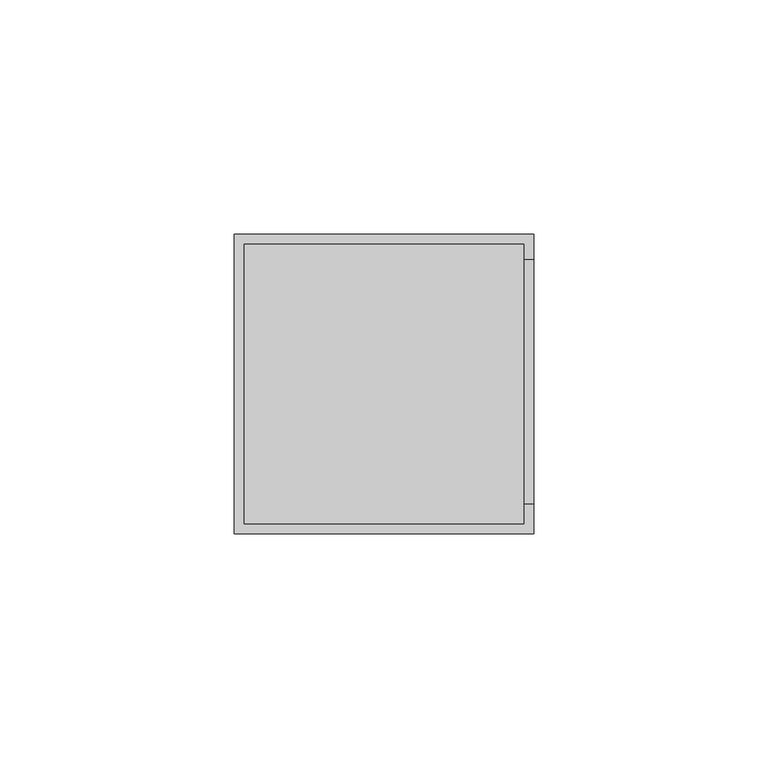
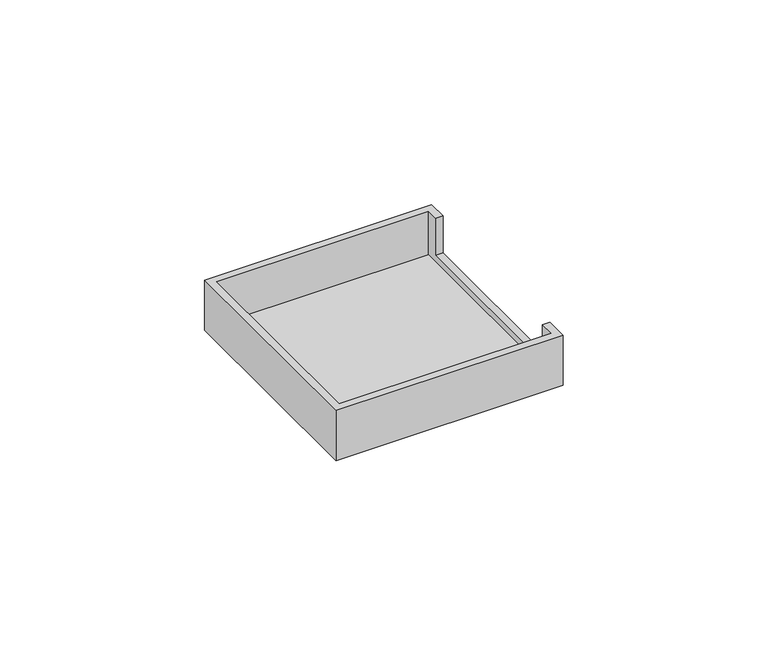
"""IFC4 building model written with IfcOpenShell, lengths in millimetres: duct fitting geometry, Изолирующая коробка - 1 пост - суппорт универсальный - для монтажа : Изолирующая коробка - 1 пост - суппорт универсальный - для монтажа."""

from ifc_helpers import new_model, si_unit, origin, origin_with_axes, place, context, project, spatial, polyline, outline, extrude, faceted_brep, source, transform, mapped, element, save


def duct_fitting_19e58b72(model_context):
    return source(origin(), model_context, "Body", "SolidModel", [
        extrude(outline(polyline([(30.0, 30.0), (30.0, -30.0), (-30.0, -30.0), (-30.0, 30.0), (30.0, 30.0)])), origin_with_axes(), (0.0, 0.0, 1.0), 2.0),
        faceted_brep([(32.0, 32.0, 15.0), (-32.0, 32.0, 15.0), (-32.0, -32.0, 15.0), (32.0, -32.0, 15.0), (32.0, -25.6326846, 15.0), (30.0, -25.6326846, 15.0), (30.0, -30.0, 15.0), (-30.0, -30.0, 15.0), (-30.0, 30.0, 15.0), (30.0, 30.0, 15.0), (30.0, 26.5913444, 15.0), (32.0, 26.5913444, 15.0), (32.0, 32.0, 0.0), (32.0, -32.0, 0.0), (-32.0, -32.0, 0.0), (-32.0, 32.0, 0.0), (30.0, 30.0, 0.0), (-30.0, 30.0, 0.0), (-30.0, -30.0, 0.0), (30.0, -30.0, 0.0), (32.0, 26.5913444, 3.9555715), (32.0, -25.6326846, 3.9555715), (30.0, -25.6326846, 3.9555715), (30.0, 26.5913444, 3.9555715)], [[[0, 1, 2, 3, 4, 5, 6, 7, 8, 9, 10, 11]], [[12, 13, 14, 15], [16, 17, 18, 19]], [[1, 0, 12, 15]], [[2, 1, 15, 14]], [[3, 2, 14, 13]], [[13, 12, 0, 11, 20, 21, 4, 3]], [[16, 19, 6, 5, 22, 23, 10, 9]], [[7, 6, 19, 18]], [[8, 7, 18, 17]], [[9, 8, 17, 16]], [[23, 20, 11, 10]], [[20, 23, 22, 21]], [[21, 22, 5, 4]]]),
    ])


if __name__ == "__main__":
    model = new_model("IFC4")
    model_context = context("Model", 3, world=origin())
    ifc_project = project(units=[si_unit("LENGTHUNIT", "METRE", prefix="MILLI")], contexts=[model_context])
    site = spatial("IfcSite", under=ifc_project)
    building = spatial("IfcBuilding", under=site)
    placement = place(None, origin())
    duct_fitting_shape = duct_fitting_19e58b72(model_context)
    element("IfcDuctFitting", 1, ObjectType="Изолирующая коробка - 1 пост - суппорт универсальный - для монтажа : Изолирующая коробка - 1 пост - суппорт универсальный - для монтажа", at=placement, inside=building, context=model_context, shape_type="MappedRepresentation", body=[
        mapped(duct_fitting_shape, transform((0.0, 0.0, 0.0), x_axis=(1.0, 0.0, 0.0), y_axis=(0.0, 1.0, 0.0), z_axis=(0.0, 0.0, 1.0))),
    ])
    save(model, "model.ifc")
